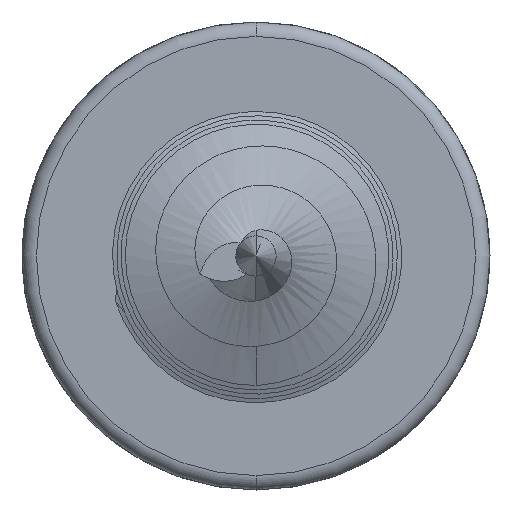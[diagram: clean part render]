
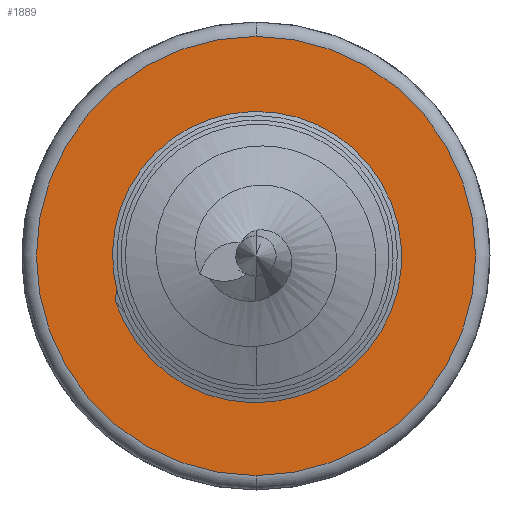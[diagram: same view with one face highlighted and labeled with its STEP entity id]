
A CAD part, front view. The second image highlights one B-rep face of the part: STEP entity #1889.
In plain terms, the highlighted planar face has unit normal (0, -1, 0).
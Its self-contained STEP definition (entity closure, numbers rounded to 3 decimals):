
#88 = CARTESIAN_POINT ( 'NONE',  ( -1.949, 0., -0.633 ) ) ;
#171 = CIRCLE ( 'NONE', #4234, 1.596 ) ;
#188 = EDGE_CURVE ( 'NONE', #4793, #2348, #171, .T. ) ;
#206 = ORIENTED_EDGE ( 'NONE', *, *, #1173, .T. ) ;
#247 = CARTESIAN_POINT ( 'NONE',  ( 0., 0., 0. ) ) ;
#285 = ORIENTED_EDGE ( 'NONE', *, *, #801, .T. ) ;
#299 = CARTESIAN_POINT ( 'NONE',  ( -0.817, 0., -1.371 ) ) ;
#363 = ORIENTED_EDGE ( 'NONE', *, *, #3871, .T. ) ;
#370 = CARTESIAN_POINT ( 'NONE',  ( -1.452, 0., 0.662 ) ) ;
#385 = ORIENTED_EDGE ( 'NONE', *, *, #4361, .T. ) ;
#434 = CIRCLE ( 'NONE', #2621, 1.596 ) ;
#512 = CARTESIAN_POINT ( 'NONE',  ( 0., 0., -3.05 ) ) ;
#645 = EDGE_LOOP ( 'NONE', ( #660, #363, #285, #4311, #206 ) ) ;
#660 = ORIENTED_EDGE ( 'NONE', *, *, #3480, .T. ) ;
#769 = CARTESIAN_POINT ( 'NONE',  ( -1.876, 0., -0.045 ) ) ;
#801 = EDGE_CURVE ( 'NONE', #1892, #4793, #434, .T. ) ;
#938 = DIRECTION ( 'NONE',  ( 0., 1., 0. ) ) ;
#1045 = EDGE_CURVE ( 'NONE', #3245, #2748, #1696, .T. ) ;
#1055 = CARTESIAN_POINT ( 'NONE',  ( -1.452, 0., 0.662 ) ) ;
#1155 = EDGE_LOOP ( 'NONE', ( #385, #2971 ) ) ;
#1173 = EDGE_CURVE ( 'NONE', #2348, #1176, #4772, .T. ) ;
#1176 = VERTEX_POINT ( 'NONE', #1622 ) ;
#1359 = AXIS2_PLACEMENT_3D ( 'NONE', #2255, #4689, #3076 ) ;
#1464 = PLANE ( 'NONE',  #1359 ) ;
#1591 = CARTESIAN_POINT ( 'NONE',  ( -1.643, 0., -0.979 ) ) ;
#1622 = CARTESIAN_POINT ( 'NONE',  ( -1.949, 0., -0.633 ) ) ;
#1659 = CARTESIAN_POINT ( 'NONE',  ( -1.949, 0., -0.633 ) ) ;
#1696 = CIRCLE ( 'NONE', #2961, 3.05 ) ;
#1739 = CARTESIAN_POINT ( 'NONE',  ( 0., 0., 0. ) ) ;
#1859 = DIRECTION ( 'NONE',  ( 0., -1., 0. ) ) ;
#1889 = ADVANCED_FACE ( 'NONE', ( #3023, #2231 ), #1464, .F. ) ;
#1892 = VERTEX_POINT ( 'NONE', #3883 ) ;
#2091 = AXIS2_PLACEMENT_3D ( 'NONE', #1739, #3357, #5000 ) ;
#2231 = FACE_BOUND ( 'NONE', #645, .T. ) ;
#2255 = CARTESIAN_POINT ( 'NONE',  ( 0., 0., 0. ) ) ;
#2314 = DIRECTION ( 'NONE',  ( 0., 1., 0. ) ) ;
#2348 = VERTEX_POINT ( 'NONE', #5238 ) ;
#2374 = CARTESIAN_POINT ( 'NONE',  ( -1.792, 0., 0.178 ) ) ;
#2621 = AXIS2_PLACEMENT_3D ( 'NONE', #4347, #2314, #3937 ) ;
#2736 = DIRECTION ( 'NONE',  ( 0., 0., 1. ) ) ;
#2748 = VERTEX_POINT ( 'NONE', #4985 ) ;
#2961 = AXIS2_PLACEMENT_3D ( 'NONE', #247, #1859, #2736 ) ;
#2971 = ORIENTED_EDGE ( 'NONE', *, *, #1045, .T. ) ;
#3023 = FACE_OUTER_BOUND ( 'NONE', #1155, .T. ) ;
#3076 = DIRECTION ( 'NONE',  ( 0., 0., 1. ) ) ;
#3161 = DIRECTION ( 'NONE',  ( 0., -1., 0. ) ) ;
#3205 = CARTESIAN_POINT ( 'NONE',  ( -1.552, 0., -1.053 ) ) ;
#3245 = VERTEX_POINT ( 'NONE', #512 ) ;
#3273 = CARTESIAN_POINT ( 'NONE',  ( -1.906, 0., -0.161 ) ) ;
#3357 = DIRECTION ( 'NONE',  ( 0., 1., 0. ) ) ;
#3480 = EDGE_CURVE ( 'NONE', #1176, #3600, #4109, .T. ) ;
#3599 = CARTESIAN_POINT ( 'NONE',  ( -1.74, 0., 0.284 ) ) ;
#3600 = VERTEX_POINT ( 'NONE', #1055 ) ;
#3612 = AXIS2_PLACEMENT_3D ( 'NONE', #5099, #3161, #4796 ) ;
#3869 = CIRCLE ( 'NONE', #2091, 1.596 ) ;
#3871 = EDGE_CURVE ( 'NONE', #3600, #1892, #3869, .T. ) ;
#3883 = CARTESIAN_POINT ( 'NONE',  ( 0., 0., 1.596 ) ) ;
#3937 = DIRECTION ( 'NONE',  ( 0., 0., 1. ) ) ;
#3983 = CARTESIAN_POINT ( 'NONE',  ( -1.264, 0., -1.244 ) ) ;
#3993 = CARTESIAN_POINT ( 'NONE',  ( -1.613, 0., 0.484 ) ) ;
#4019 = CARTESIAN_POINT ( 'NONE',  ( -1.537, 0., 0.579 ) ) ;
#4109 = B_SPLINE_CURVE_WITH_KNOTS ( 'NONE', 3,
 ( #1659, #4483, #4403, #3273, #769, #2374, #3599, #3993, #4019, #370 ),
 .UNSPECIFIED., .F., .F.,
 ( 4, 2, 2, 2, 4 ),
 ( 0., 0., 0.001, 0.001, 0.001 ),
 .UNSPECIFIED. ) ;
#4120 = CARTESIAN_POINT ( 'NONE',  ( -1.882, 0., -0.729 ) ) ;
#4132 = CARTESIAN_POINT ( 'NONE',  ( 0., 0., -1.596 ) ) ;
#4234 = AXIS2_PLACEMENT_3D ( 'NONE', #4979, #938, #4549 ) ;
#4311 = ORIENTED_EDGE ( 'NONE', *, *, #188, .T. ) ;
#4347 = CARTESIAN_POINT ( 'NONE',  ( 0., 0., 0. ) ) ;
#4361 = EDGE_CURVE ( 'NONE', #2748, #3245, #5242, .T. ) ;
#4403 = CARTESIAN_POINT ( 'NONE',  ( -1.944, 0., -0.395 ) ) ;
#4483 = CARTESIAN_POINT ( 'NONE',  ( -1.952, 0., -0.513 ) ) ;
#4549 = DIRECTION ( 'NONE',  ( 0., 0., 1. ) ) ;
#4689 = DIRECTION ( 'NONE',  ( 0., 1., 0. ) ) ;
#4772 = B_SPLINE_CURVE_WITH_KNOTS ( 'NONE', 3,
 ( #299, #5171, #3983, #3205, #1591, #4847, #4120, #88 ),
 .UNSPECIFIED., .F., .F.,
 ( 4, 2, 2, 4 ),
 ( 0.001, 0.001, 0.002, 0.002 ),
 .UNSPECIFIED. ) ;
#4793 = VERTEX_POINT ( 'NONE', #4132 ) ;
#4796 = DIRECTION ( 'NONE',  ( 0., 0., 1. ) ) ;
#4847 = CARTESIAN_POINT ( 'NONE',  ( -1.808, 0., -0.817 ) ) ;
#4979 = CARTESIAN_POINT ( 'NONE',  ( 0., 0., 0. ) ) ;
#4985 = CARTESIAN_POINT ( 'NONE',  ( 0., 0., 3.05 ) ) ;
#5000 = DIRECTION ( 'NONE',  ( 0., 0., 1. ) ) ;
#5099 = CARTESIAN_POINT ( 'NONE',  ( 0., 0., 0. ) ) ;
#5171 = CARTESIAN_POINT ( 'NONE',  ( -1.045, 0., -1.334 ) ) ;
#5238 = CARTESIAN_POINT ( 'NONE',  ( -0.817, 0., -1.371 ) ) ;
#5242 = CIRCLE ( 'NONE', #3612, 3.05 ) ;
